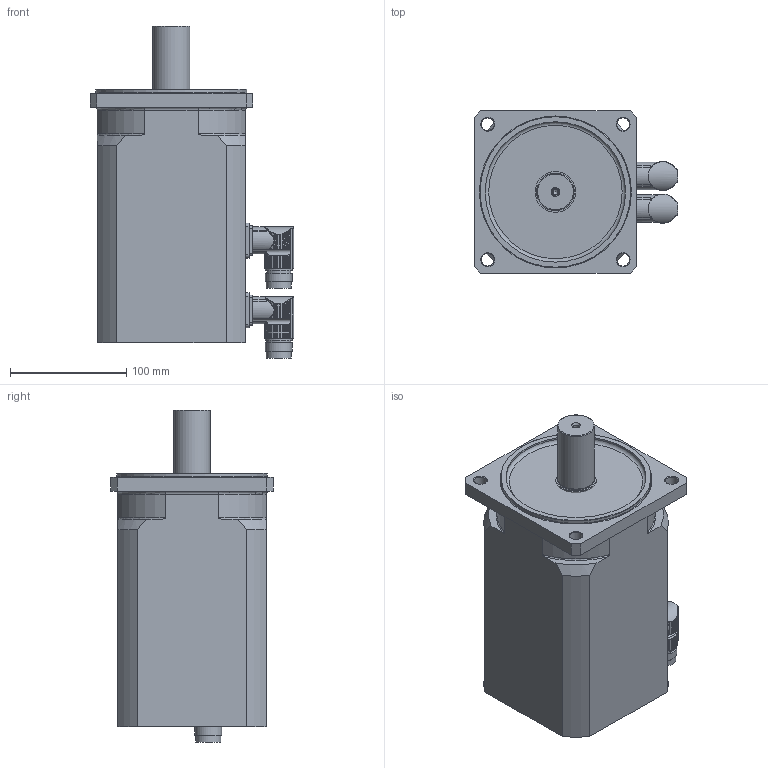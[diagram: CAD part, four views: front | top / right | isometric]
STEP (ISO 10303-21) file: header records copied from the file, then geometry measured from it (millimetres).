
FILE_DESCRIPTION(/* description */ (''),/* implementation_level */ '2;1');
FILE_NAME(/* name */ 'KSY 564 D-MD-R4',/* time_stamp */ '2007-01-03T15:03:30+01:00',/* author */ (''),/* organization */ (''),/* preprocessor_version */ 'ST-DEVELOPER v8',/* originating_system */ 'UNIGRAPHICS SOLUTIONS - UNIGRAPHICS 18.0',/* authorisation */ '');
FILE_SCHEMA (('AUTOMOTIVE_DESIGN { 1 2 10303 214 0 1 1 1 }'));
Length unit declared in the file: millimetre
Products named in the file (3): Winkelflanschdose_0; Rotor_SY5_0; KSY564D-MD-R4_0
Assembly tree (3 placements, depth 2):
  KSY564D-MD-R4_0
    Rotor_SY5_0
    Winkelflanschdose_0  x2
Bounding box: 175.49 x 140 x 286.15 mm (x, y, z)
Volume: 3547432.3 mm3; surface area: 172562.9 mm2
Topology: 4 solids, 4 shells, 419 faces, 1162 edges, 769 vertices
Faces by surface type: cylinder 319, plane 74, cone 13, torus 13
Full cylindrical faces by diameter (mm): 4.351 x1, 5.5 x1, 11 x4, 16 x2, 21 x2, 21.5 x2, 23 x4, 31.52 x1, 32 x1, 35 x1, 121 x1, 130 x1
Entity records: 8421 total; most frequent: CARTESIAN_POINT 2117, ORIENTED_EDGE 1310, DIRECTION 1248, EDGE_CURVE 655, AXIS2_PLACEMENT_3D 498, VERTEX_POINT 449, EDGE_LOOP 305, ADVANCED_FACE 255
